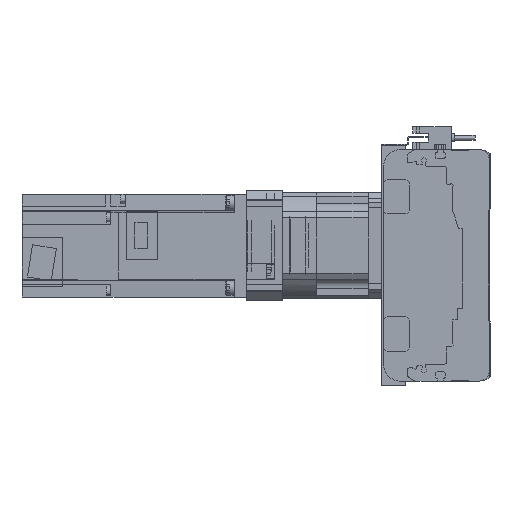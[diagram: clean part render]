
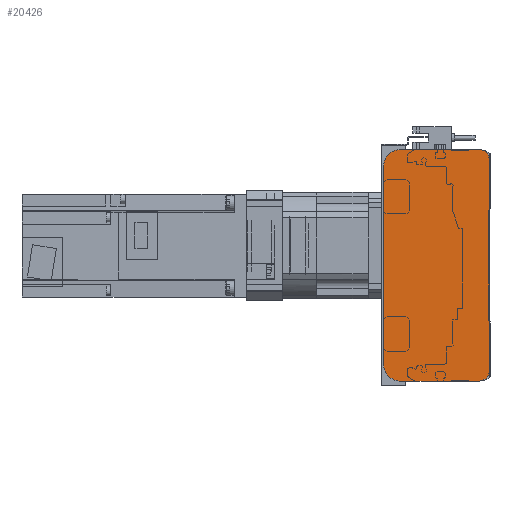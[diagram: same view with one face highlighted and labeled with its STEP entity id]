
A CAD part, left-side view. The second image highlights one B-rep face of the part: STEP entity #20426.
In plain terms, the highlighted planar face has unit normal (-1, 0, 0).
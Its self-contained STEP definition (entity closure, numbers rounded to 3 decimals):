
#1316=CIRCLE('',#22375,5.);
#1317=CIRCLE('',#22378,5.);
#1318=CIRCLE('',#22381,10.);
#1319=CIRCLE('',#22384,10.);
#6019=ORIENTED_EDGE('',*,*,#9263,.F.);
#6020=ORIENTED_EDGE('',*,*,#9420,.F.);
#6021=ORIENTED_EDGE('',*,*,#9412,.F.);
#6022=ORIENTED_EDGE('',*,*,#9410,.F.);
#6023=ORIENTED_EDGE('',*,*,#9043,.F.);
#6024=ORIENTED_EDGE('',*,*,#9409,.F.);
#6025=ORIENTED_EDGE('',*,*,#9407,.F.);
#6026=ORIENTED_EDGE('',*,*,#9405,.F.);
#6027=ORIENTED_EDGE('',*,*,#9403,.F.);
#6028=ORIENTED_EDGE('',*,*,#9401,.F.);
#9043=EDGE_CURVE('',#11246,#11247,#13044,.T.);
#9263=EDGE_CURVE('',#11347,#11348,#13187,.T.);
#9401=EDGE_CURVE('',#11348,#11431,#13316,.T.);
#9403=EDGE_CURVE('',#11431,#11432,#1316,.T.);
#9405=EDGE_CURVE('',#11432,#11433,#13319,.T.);
#9407=EDGE_CURVE('',#11433,#11434,#1317,.T.);
#9409=EDGE_CURVE('',#11434,#11246,#13322,.T.);
#9410=EDGE_CURVE('',#11247,#11435,#1318,.T.);
#9412=EDGE_CURVE('',#11435,#11436,#13324,.T.);
#9420=EDGE_CURVE('',#11436,#11347,#1319,.T.);
#11246=VERTEX_POINT('',#33648);
#11247=VERTEX_POINT('',#33650);
#11347=VERTEX_POINT('',#34045);
#11348=VERTEX_POINT('',#34047);
#11431=VERTEX_POINT('',#34324);
#11432=VERTEX_POINT('',#34328);
#11433=VERTEX_POINT('',#34332);
#11434=VERTEX_POINT('',#34336);
#11435=VERTEX_POINT('',#34342);
#11436=VERTEX_POINT('',#34346);
#13044=LINE('',#33649,#14817);
#13187=LINE('',#34046,#14960);
#13316=LINE('',#34323,#15089);
#13319=LINE('',#34331,#15092);
#13322=LINE('',#34339,#15095);
#13324=LINE('',#34345,#15097);
#14817=VECTOR('',#27048,1000.);
#14960=VECTOR('',#27497,1000.);
#15089=VECTOR('',#27756,1000.);
#15092=VECTOR('',#27765,1000.);
#15095=VECTOR('',#27774,1000.);
#15097=VECTOR('',#27782,1000.);
#16533=EDGE_LOOP('',(#6019,#6020,#6021,#6022,#6023,#6024,#6025,#6026,#6027,
#6028));
#18332=FACE_BOUND('',#16533,.T.);
#19367=PLANE('',#22385);
#20426=ADVANCED_FACE('',(#18332),#19367,.F.);
#22375=AXIS2_PLACEMENT_3D('',#34327,#27760,#27761);
#22378=AXIS2_PLACEMENT_3D('',#34335,#27769,#27770);
#22381=AXIS2_PLACEMENT_3D('',#34341,#27777,#27778);
#22384=AXIS2_PLACEMENT_3D('',#34359,#27792,#27793);
#22385=AXIS2_PLACEMENT_3D('',#34360,#27794,#27795);
#27048=DIRECTION('',(0.,1.,0.));
#27497=DIRECTION('',(0.,-1.,0.));
#27756=DIRECTION('',(0.,-0.942,-0.336));
#27760=DIRECTION('',(1.,0.,0.));
#27761=DIRECTION('',(0.,0.,-1.));
#27765=DIRECTION('',(0.,0.,-1.));
#27769=DIRECTION('',(1.,0.,0.));
#27770=DIRECTION('',(0.,0.,-1.));
#27774=DIRECTION('',(0.,0.942,-0.336));
#27777=DIRECTION('',(1.,0.,0.));
#27778=DIRECTION('',(0.,0.,-1.));
#27782=DIRECTION('',(0.,0.,1.));
#27792=DIRECTION('',(1.,0.,0.));
#27793=DIRECTION('',(0.,0.,-1.));
#27794=DIRECTION('',(1.,0.,0.));
#27795=DIRECTION('',(0.,0.,-1.));
#33648=CARTESIAN_POINT('',(-10.,6.,-67.5));
#33649=CARTESIAN_POINT('',(-10.,6.,-67.5));
#33650=CARTESIAN_POINT('',(-10.,52.,-67.5));
#34045=CARTESIAN_POINT('',(-10.,52.,67.5));
#34046=CARTESIAN_POINT('',(-10.,52.,67.5));
#34047=CARTESIAN_POINT('',(-10.,6.,67.5));
#34323=CARTESIAN_POINT('',(-10.,6.,67.5));
#34324=CARTESIAN_POINT('',(-10.,3.822,66.724));
#34327=CARTESIAN_POINT('',(-10.,5.5,62.014));
#34328=CARTESIAN_POINT('',(-10.,0.5,62.014));
#34331=CARTESIAN_POINT('',(-10.,0.5,62.014));
#34332=CARTESIAN_POINT('',(-10.,0.5,-62.014));
#34335=CARTESIAN_POINT('',(-10.,5.5,-62.014));
#34336=CARTESIAN_POINT('',(-10.,3.822,-66.724));
#34339=CARTESIAN_POINT('',(-10.,3.822,-66.724));
#34341=CARTESIAN_POINT('',(-10.,52.,-57.5));
#34342=CARTESIAN_POINT('',(-10.,62.,-57.5));
#34345=CARTESIAN_POINT('',(-10.,62.,-57.5));
#34346=CARTESIAN_POINT('',(-10.,62.,57.5));
#34359=CARTESIAN_POINT('',(-10.,52.,57.5));
#34360=CARTESIAN_POINT('',(-10.,5.5,62.014));
